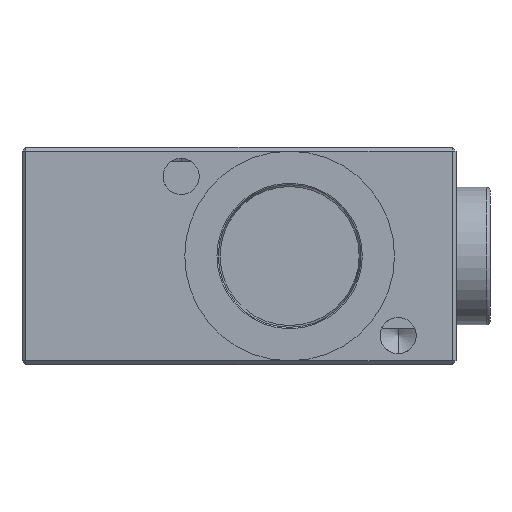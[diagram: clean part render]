
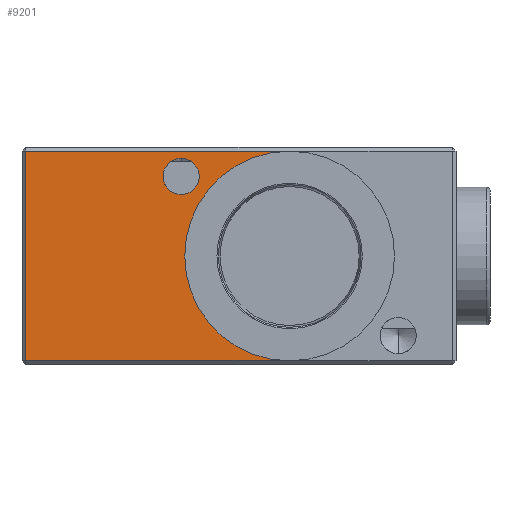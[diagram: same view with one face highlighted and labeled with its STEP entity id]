
A CAD part, left-side view. The second image highlights one B-rep face of the part: STEP entity #9201.
In plain terms, the highlighted planar face has unit normal (-1, 0, 0).
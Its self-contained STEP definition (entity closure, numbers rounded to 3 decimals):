
#87 = CARTESIAN_POINT ( 'NONE',  ( 0., 38., -1.5 ) ) ;
#1110 = VECTOR ( 'NONE', #10720, 1000. ) ;
#1227 = ORIENTED_EDGE ( 'NONE', *, *, #7627, .F. ) ;
#1382 = FACE_BOUND ( 'NONE', #5772, .T. ) ;
#1425 = EDGE_LOOP ( 'NONE', ( #1227, #12176, #2055, #3624 ) ) ;
#1654 = LINE ( 'NONE', #16078, #1110 ) ;
#1771 = CARTESIAN_POINT ( 'NONE',  ( 0., 23., -29.5 ) ) ;
#2055 = ORIENTED_EDGE ( 'NONE', *, *, #4466, .T. ) ;
#2068 = EDGE_CURVE ( 'NONE', #9341, #15021, #9603, .T. ) ;
#2238 = CIRCLE ( 'NONE', #9350, 2.5 ) ;
#2514 = LINE ( 'NONE', #12911, #4074 ) ;
#2933 = ORIENTED_EDGE ( 'NONE', *, *, #13008, .F. ) ;
#3624 = ORIENTED_EDGE ( 'NONE', *, *, #13499, .T. ) ;
#4074 = VECTOR ( 'NONE', #12145, 1000. ) ;
#4349 = EDGE_CURVE ( 'NONE', #6146, #15040, #2238, .T. ) ;
#4466 = EDGE_CURVE ( 'NONE', #15021, #5871, #1654, .T. ) ;
#4522 = AXIS2_PLACEMENT_3D ( 'NONE', #12451, #12439, #12382 ) ;
#5772 = EDGE_LOOP ( 'NONE', ( #12638, #2933 ) ) ;
#5871 = VERTEX_POINT ( 'NONE', #6506 ) ;
#6146 = VERTEX_POINT ( 'NONE', #87 ) ;
#6506 = CARTESIAN_POINT ( 'NONE',  ( 0., 59.5, -29.5 ) ) ;
#6728 = CARTESIAN_POINT ( 'NONE',  ( 0., 23., -0.5 ) ) ;
#7627 = EDGE_CURVE ( 'NONE', #9341, #9719, #10970, .T. ) ;
#7697 = AXIS2_PLACEMENT_3D ( 'NONE', #7828, #7822, #7806 ) ;
#7806 = DIRECTION ( 'NONE',  ( 0., 0., 1. ) ) ;
#7822 = DIRECTION ( 'NONE',  ( -1., 0., 0. ) ) ;
#7828 = CARTESIAN_POINT ( 'NONE',  ( 0., 0., -30. ) ) ;
#8331 = PLANE ( 'NONE',  #7697 ) ;
#8610 = DIRECTION ( 'NONE',  ( 0., 0., 1. ) ) ;
#8635 = DIRECTION ( 'NONE',  ( -1., 0., 0. ) ) ;
#8655 = CARTESIAN_POINT ( 'NONE',  ( 0., 23., -15. ) ) ;
#9201 = ADVANCED_FACE ( 'NONE', ( #11343, #1382 ), #8331, .T. ) ;
#9341 = VERTEX_POINT ( 'NONE', #6728 ) ;
#9350 = AXIS2_PLACEMENT_3D ( 'NONE', #13324, #13364, #11107 ) ;
#9603 = LINE ( 'NONE', #11572, #14658 ) ;
#9719 = VERTEX_POINT ( 'NONE', #1771 ) ;
#9723 = AXIS2_PLACEMENT_3D ( 'NONE', #8655, #8635, #8610 ) ;
#10720 = DIRECTION ( 'NONE',  ( 0., 0., -1. ) ) ;
#10970 = CIRCLE ( 'NONE', #9723, 14.5 ) ;
#11107 = DIRECTION ( 'NONE',  ( 0., 0., 1. ) ) ;
#11343 = FACE_OUTER_BOUND ( 'NONE', #1425, .T. ) ;
#11572 = CARTESIAN_POINT ( 'NONE',  ( 0., 60., -0.5 ) ) ;
#11613 = DIRECTION ( 'NONE',  ( 0., 1., 0. ) ) ;
#12145 = DIRECTION ( 'NONE',  ( 0., -1., 0. ) ) ;
#12176 = ORIENTED_EDGE ( 'NONE', *, *, #2068, .T. ) ;
#12382 = DIRECTION ( 'NONE',  ( 0., 0., 1. ) ) ;
#12439 = DIRECTION ( 'NONE',  ( -1., 0., 0. ) ) ;
#12451 = CARTESIAN_POINT ( 'NONE',  ( 0., 38., -4. ) ) ;
#12638 = ORIENTED_EDGE ( 'NONE', *, *, #4349, .F. ) ;
#12911 = CARTESIAN_POINT ( 'NONE',  ( 0., 0., -29.5 ) ) ;
#13008 = EDGE_CURVE ( 'NONE', #15040, #6146, #13103, .T. ) ;
#13103 = CIRCLE ( 'NONE', #4522, 2.5 ) ;
#13324 = CARTESIAN_POINT ( 'NONE',  ( 0., 38., -4. ) ) ;
#13364 = DIRECTION ( 'NONE',  ( -1., 0., 0. ) ) ;
#13499 = EDGE_CURVE ( 'NONE', #5871, #9719, #2514, .T. ) ;
#13572 = CARTESIAN_POINT ( 'NONE',  ( 0., 38., -6.5 ) ) ;
#13874 = CARTESIAN_POINT ( 'NONE',  ( 0., 59.5, -0.5 ) ) ;
#14658 = VECTOR ( 'NONE', #11613, 1000. ) ;
#15021 = VERTEX_POINT ( 'NONE', #13874 ) ;
#15040 = VERTEX_POINT ( 'NONE', #13572 ) ;
#16078 = CARTESIAN_POINT ( 'NONE',  ( 0., 59.5, -30. ) ) ;
